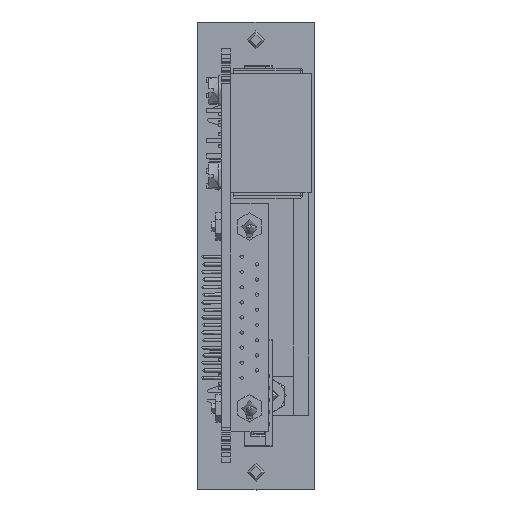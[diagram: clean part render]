
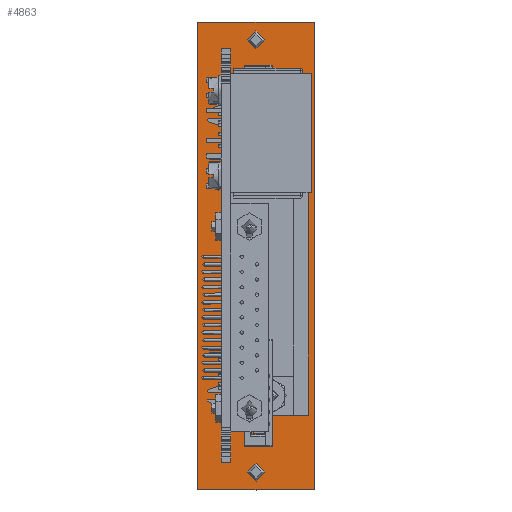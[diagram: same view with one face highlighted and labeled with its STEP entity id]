
A CAD part, front view. The second image highlights one B-rep face of the part: STEP entity #4863.
In plain terms, the highlighted planar face has unit normal (0, -1, 0).
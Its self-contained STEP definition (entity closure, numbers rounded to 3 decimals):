
#4863=ADVANCED_FACE('',(#26791,#26793,#26795,#26797),#26799,.F.);
#26791=FACE_BOUND('',#26792,.T.);
#26792=EDGE_LOOP('',(#45197,#45198,#45199,#45200));
#26793=FACE_BOUND('',#26794,.T.);
#26794=EDGE_LOOP('',(#45201,#45202,#45203,#45204));
#26795=FACE_BOUND('',#26796,.T.);
#26796=EDGE_LOOP('',(#45205));
#26797=FACE_BOUND('',#26798,.T.);
#26798=EDGE_LOOP('',(#45206));
#26799=PLANE('',#26800);
#26800=AXIS2_PLACEMENT_3D('',#26801,#26802,#26803);
#26801=CARTESIAN_POINT('',(0.,0.,0.));
#26802=DIRECTION('',(0.,1.,0.));
#26803=DIRECTION('',(-1.,0.,0.));
#45197=ORIENTED_EDGE('',*,*,#55366,.F.);
#45198=ORIENTED_EDGE('',*,*,#55374,.F.);
#45199=ORIENTED_EDGE('',*,*,#55371,.F.);
#45200=ORIENTED_EDGE('',*,*,#55369,.F.);
#45201=ORIENTED_EDGE('',*,*,#56363,.F.);
#45202=ORIENTED_EDGE('',*,*,#56364,.F.);
#45203=ORIENTED_EDGE('',*,*,#56365,.F.);
#45204=ORIENTED_EDGE('',*,*,#56366,.F.);
#45205=ORIENTED_EDGE('',*,*,#56367,.T.);
#45206=ORIENTED_EDGE('',*,*,#56368,.T.);
#55366=EDGE_CURVE('',#62052,#62053,#62054,.T.);
#55369=EDGE_CURVE('',#62053,#62057,#62058,.T.);
#55371=EDGE_CURVE('',#62057,#62060,#62061,.T.);
#55374=EDGE_CURVE('',#62060,#62052,#62065,.T.);
#56363=EDGE_CURVE('',#63555,#63556,#63557,.F.);
#56364=EDGE_CURVE('',#63558,#63555,#63559,.F.);
#56365=EDGE_CURVE('',#63560,#63558,#63561,.F.);
#56366=EDGE_CURVE('',#63556,#63560,#63562,.F.);
#56367=EDGE_CURVE('',#63563,#63563,#63564,.F.);
#56368=EDGE_CURVE('',#63565,#63565,#63566,.F.);
#62052=VERTEX_POINT('',#73861);
#62053=VERTEX_POINT('',#73862);
#62054=LINE('',#73863,#73864);
#62057=VERTEX_POINT('',#73872);
#62058=LINE('',#73873,#73874);
#62060=VERTEX_POINT('',#73879);
#62061=LINE('',#73880,#73881);
#62065=LINE('',#73891,#73892);
#63555=VERTEX_POINT('',#77702);
#63556=VERTEX_POINT('',#77703);
#63557=LINE('',#77704,#77705);
#63558=VERTEX_POINT('',#77707);
#63559=LINE('',#77708,#77709);
#63560=VERTEX_POINT('',#77711);
#63561=LINE('',#77712,#77713);
#63562=LINE('',#77715,#77716);
#63563=VERTEX_POINT('',#77718);
#63564=CIRCLE('',#77719,1.229);
#63565=VERTEX_POINT('',#77723);
#63566=CIRCLE('',#77724,1.229);
#73861=CARTESIAN_POINT('',(0.,0.,0.));
#73862=CARTESIAN_POINT('',(-19.6,0.,0.));
#73863=CARTESIAN_POINT('',(0.,0.,0.));
#73864=VECTOR('',#73865,1.);
#73865=DIRECTION('',(-1.,0.,0.));
#73872=CARTESIAN_POINT('',(-19.6,0.,78.5));
#73873=CARTESIAN_POINT('',(-19.6,0.,0.));
#73874=VECTOR('',#73875,1.);
#73875=DIRECTION('',(0.,0.,1.));
#73879=CARTESIAN_POINT('',(0.,0.,78.5));
#73880=CARTESIAN_POINT('',(-19.6,0.,78.5));
#73881=VECTOR('',#73882,1.);
#73882=DIRECTION('',(1.,0.,0.));
#73891=CARTESIAN_POINT('',(0.,0.,78.5));
#73892=VECTOR('',#73893,1.);
#73893=DIRECTION('',(0.,0.,-1.));
#77702=CARTESIAN_POINT('',(-14.,0.,66.05));
#77703=CARTESIAN_POINT('',(-14.,0.,12.55));
#77704=CARTESIAN_POINT('',(-14.,0.,12.55));
#77705=VECTOR('',#77706,1.);
#77706=DIRECTION('',(0.,0.,1.));
#77707=CARTESIAN_POINT('',(-1.07,0.,66.05));
#77708=CARTESIAN_POINT('',(-14.,0.,66.05));
#77709=VECTOR('',#77710,1.);
#77710=DIRECTION('',(1.,0.,0.));
#77711=CARTESIAN_POINT('',(-1.07,0.,12.55));
#77712=CARTESIAN_POINT('',(-1.07,0.,66.05));
#77713=VECTOR('',#77714,1.);
#77714=DIRECTION('',(0.,0.,-1.));
#77715=CARTESIAN_POINT('',(-1.07,0.,12.55));
#77716=VECTOR('',#77717,1.);
#77717=DIRECTION('',(-1.,0.,0.));
#77718=CARTESIAN_POINT('',(-8.571,0.,3.));
#77719=AXIS2_PLACEMENT_3D('',#77720,#77721,#77722);
#77720=CARTESIAN_POINT('',(-9.8,0.,3.));
#77721=DIRECTION('',(0.,-1.,0.));
#77722=DIRECTION('',(1.,0.,0.));
#77723=CARTESIAN_POINT('',(-8.571,0.,75.5));
#77724=AXIS2_PLACEMENT_3D('',#77725,#77726,#77727);
#77725=CARTESIAN_POINT('',(-9.8,0.,75.5));
#77726=DIRECTION('',(0.,-1.,0.));
#77727=DIRECTION('',(1.,0.,0.));
